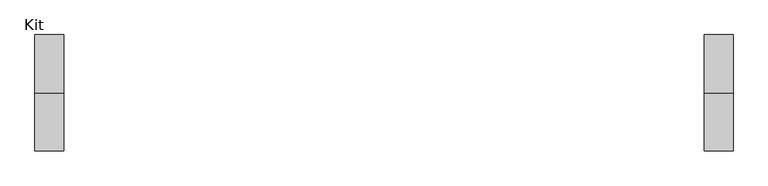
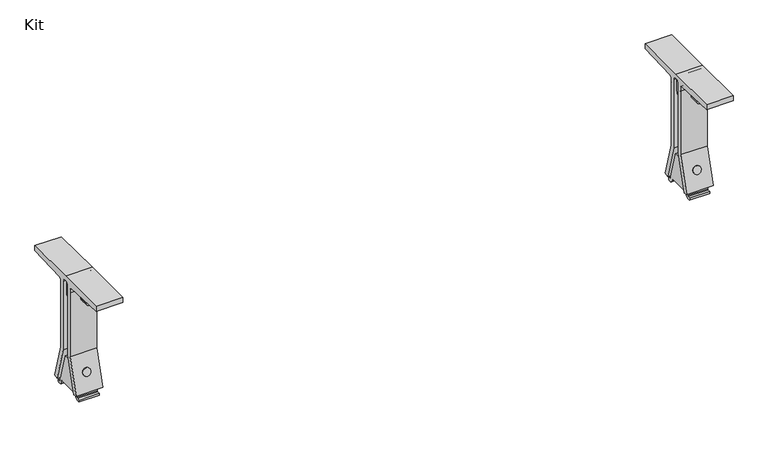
"""IFC4 building model written with IfcOpenShell, lengths in millimetres: furniture geometry, Steelcase - C Scape - Mid Storage Support - Parallel Application : Kit."""

from ifc_helpers import new_model, si_unit, point, frame, frame_2d, origin, place, context, project, spatial, polyline, circle_curve, trimmed, segment, composite_curve, outline, extrude, source, transform, mapped, element, save
from ifc_brep_helpers import plane_surface, cylinder_surface, revolved_surface, advanced_brep


def kit_029fefce(model_context):
    return source(origin(), model_context, "Body", "SolidModel", [
        extrude(outline(composite_curve([segment(trimmed(circle_curve(frame_2d((0.0, -7.62)), 7.62), [point((0.0, -15.2400001))], [point((0.0, 0.0))], False, "CARTESIAN"), True, "CONTINUOUS"), segment(trimmed(circle_curve(frame_2d((0.0, -7.62)), 7.62), [point((0.0, 0.0))], [point((0.0, -15.2400001))], False, "CARTESIAN"), True, "CONTINUOUS")], self_intersect=False)), frame((1346.0372744, 27.6488399, 643.460563), z_axis=(0.0, 0.9612616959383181, 0.27563735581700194), x_axis=(1.0, 0.0, 0.0)), (0.0, 0.0, 1.0), 1.4986),
        extrude(outline(composite_curve([segment(trimmed(circle_curve(frame_2d((0.0, -7.62)), 7.62), [point((0.0, -15.2400001))], [point((0.0, 0.0))], False, "CARTESIAN"), True, "CONTINUOUS"), segment(trimmed(circle_curve(frame_2d((0.0, -7.62)), 7.62), [point((0.0, 0.0))], [point((0.0, -15.2400001))], False, "CARTESIAN"), True, "CONTINUOUS")], self_intersect=False)), frame((1346.0372744, -27.6488399, 643.460563), z_axis=(0.0, -0.9612616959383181, 0.27563735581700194), x_axis=(-1.0, 0.0, 0.0)), (0.0, 0.0, 1.0), 1.4986),
        extrude(outline(composite_curve([segment(polyline([(831.0188755, 1327.1499939), (796.4677708, 1327.1499939)]), True, "CONTINUOUS"), segment(trimmed(circle_curve(frame_2d((796.4677708, 1346.1223365)), 18.9723425), [point((796.4677708, 1327.1499939))], [point((796.4677708, 1365.094679))], False, "CARTESIAN"), True, "CONTINUOUS"), segment(polyline([(796.4677708, 1365.094679), (831.0188755, 1365.094679), (831.0188755, 1327.1499939)]), True, "CONTINUOUS")], self_intersect=False)), frame((0.0, -7.7216, 0.0), z_axis=(0.0, 1.0, 0.0), x_axis=(0.0, 0.0, 1.0)), (0.0, 0.0, 1.0), 15.4432),
        extrude(outline(composite_curve([segment(trimmed(circle_curve(frame_2d((795.2125216, 1346.0777999)), 5.08), [point((795.2125216, 1340.9977999))], [point((795.2125216, 1351.1577999))], False, "CARTESIAN"), True, "CONTINUOUS"), segment(trimmed(circle_curve(frame_2d((795.2125216, 1346.0777999)), 5.08), [point((795.2125216, 1351.1577999))], [point((795.2125216, 1340.9977999))], False, "CARTESIAN"), True, "CONTINUOUS")], self_intersect=False)), frame((0.0, -33.751708, 0.0), z_axis=(0.0, 1.0, 0.0), x_axis=(0.0, 0.0, 1.0)), (0.0, 0.0, 1.0), 67.5034159),
        extrude(outline(polyline([(-12.7029566, 666.75), (0.0, 666.75), (12.7029566, 666.75), (28.4480001, 611.8301829), (28.4480001, 607.0345769), (29.7688272, 605.713791), (34.9250008, 605.713791), (34.9250008, 601.7005912), (32.4173128, 600.2527871), (27.5068015, 600.2527871), (22.9870008, 604.7725827), (22.9870008, 610.3620174), (0.0, 610.3620174), (-22.9870008, 610.3620174), (-22.9870008, 604.7725827), (-27.5068015, 600.2527871), (-32.4173128, 600.2527871), (-34.9250008, 601.7005912), (-34.9250008, 605.713791), (-29.7688272, 605.713791), (-28.4480001, 607.0345769), (-28.4480001, 611.8301829), (-12.7029566, 666.75)])), frame((1327.1499939, 0.0, 0.0), z_axis=(1.0, 0.0, 0.0), x_axis=(0.0, 1.0, 0.0)), (0.0, 0.0, 1.0), 37.9446851),
        extrude(outline(composite_curve([segment(polyline([(0.0, 838.2), (101.600003, 838.2), (101.600003, 828.2177708), (19.2990887, 824.4254454)]), True, "CONTINUOUS"), segment(trimmed(circle_curve(frame_2d((19.4630785, 820.8665431)), 3.5626785), [point((19.2990887, 824.4254454))], [point((15.9004, 820.8665431))], True, "CARTESIAN"), True, "CONTINUOUS"), segment(polyline([(15.9004, 820.8665431), (15.9004, 813.4440849), (14.8286664, 813.0540058), (15.9004, 813.0540058), (15.9004, 684.432242), (35.5026697, 616.0710033), (27.860447, 613.8796312), (7.9494757, 683.3174402), (7.9494757, 821.8670528)]), True, "CONTINUOUS"), segment(trimmed(circle_curve(frame_2d((0.0, 821.8670528)), 7.9494757), [point((7.9494757, 821.8670528))], [point((-7.9494757, 821.8670528))], True, "CARTESIAN"), True, "CONTINUOUS"), segment(polyline([(-7.9494757, 821.8670528), (-7.9494757, 683.3174402), (-27.860447, 613.8796312), (-35.5026697, 616.0710033), (-15.9004, 684.432242), (-15.9004, 813.0540058), (-14.8286664, 813.0540058), (-15.9004, 813.4440849), (-15.9004, 820.8665431)]), True, "CONTINUOUS"), segment(trimmed(circle_curve(frame_2d((-19.4630785, 820.8665431)), 3.5626785), [point((-15.9004, 820.8665431))], [point((-19.2990887, 824.4254454))], True, "CARTESIAN"), True, "CONTINUOUS"), segment(polyline([(-19.2990887, 824.4254454), (-101.600003, 828.2177708), (-101.600003, 838.2), (0.0, 838.2)]), True, "CONTINUOUS")], self_intersect=False)), frame((1320.8, 0.0, 0.0), z_axis=(1.0, 0.0, 0.0), x_axis=(0.0, 1.0, 0.0)), (0.0, 0.0, 1.0), 50.8),
        extrude(outline(composite_curve([segment(trimmed(circle_curve(frame_2d((0.0, -7.62)), 7.62), [point((0.0, -15.2400001))], [point((0.0, 0.0))], False, "CARTESIAN"), True, "CONTINUOUS"), segment(trimmed(circle_curve(frame_2d((0.0, -7.62)), 7.62), [point((0.0, 0.0))], [point((0.0, -15.2400001))], False, "CARTESIAN"), True, "CONTINUOUS")], self_intersect=False)), frame((177.6372744, -27.6488399, 643.460563), z_axis=(0.0, -0.9612616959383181, 0.27563735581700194), x_axis=(-1.0, 0.0, 0.0)), (0.0, 0.0, 1.0), 1.4986),
        extrude(outline(composite_curve([segment(trimmed(circle_curve(frame_2d((0.0, -7.62)), 7.62), [point((0.0, -15.2400001))], [point((0.0, 0.0))], False, "CARTESIAN"), True, "CONTINUOUS"), segment(trimmed(circle_curve(frame_2d((0.0, -7.62)), 7.62), [point((0.0, 0.0))], [point((0.0, -15.2400001))], False, "CARTESIAN"), True, "CONTINUOUS")], self_intersect=False)), frame((177.6372744, 27.6488399, 643.460563), z_axis=(0.0, 0.9612616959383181, 0.27563735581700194), x_axis=(1.0, 0.0, 0.0)), (0.0, 0.0, 1.0), 1.4986),
        advanced_brep(
        [(152.4, 0.0, 838.2), (152.4, 101.600003, 838.2), (152.4, 101.600003, 828.2177708), (152.4, 19.2990887, 824.4254454), (152.4, 15.9004, 820.8665431), (152.4, 15.9004, 813.4440849), (152.4, 14.8286664, 813.0540058), (152.4, 15.9004, 813.0540058), (152.4, 15.9004, 684.432242), (152.4, 35.5026697, 616.0710033), (152.4, 27.860447, 613.8796312), (152.4, 7.9494757, 683.3174402), (152.4, 7.9494757, 821.8670528), (152.4, -7.9494757, 821.8670528), (152.4, -7.9494757, 683.3174402), (152.4, -27.860447, 613.8796312), (152.4, -35.5026697, 616.0710033), (152.4, -15.9004, 684.432242), (152.4, -15.9004, 813.0540058), (152.4, -14.8286664, 813.0540058), (152.4, -15.9004, 813.4440849), (152.4, -15.9004, 820.8665431), (152.4, -19.2990887, 824.4254454), (152.4, -101.600003, 828.2177708), (152.4, -101.600003, 838.2), (203.2, 0.0, 838.2), (203.2, -101.600003, 838.2), (203.2, -101.600003, 828.2177708), (203.2, -19.2990887, 824.4254454), (203.2, -15.9004, 820.8665431), (203.2, -15.9004, 813.4440849), (203.2, -14.8286664, 813.0540058), (203.2, -15.9004, 813.0540058), (203.2, -15.9004, 684.432242), (203.2, -35.5026697, 616.0710033), (203.2, -27.860447, 613.8796312), (203.2, -7.9494757, 683.3174402), (203.2, -7.9494757, 821.8670528), (203.2, 7.9494757, 821.8670528), (203.2, 7.9494757, 683.3174402), (203.2, 27.860447, 613.8796312), (203.2, 35.5026697, 616.0710033), (203.2, 15.9004, 684.432242), (203.2, 15.9004, 813.0540058), (203.2, 14.8286664, 813.0540058), (203.2, 15.9004, 813.4440849), (203.2, 15.9004, 820.8665431), (203.2, 19.2990887, 824.4254454), (203.2, 101.600003, 828.2177708), (203.2, 101.600003, 838.2), (172.5977999, 15.9004, 795.2125216), (182.7577999, 15.9004, 795.2125216), (182.7577999, 7.9494757, 795.2125216), (172.5977999, 7.9494757, 795.2125216), (158.7499939, -7.7216, 823.756777), (196.694679, -7.7216, 823.756777), (196.694679, 7.7216, 823.756777), (158.7499939, 7.7216, 823.756777), (172.5977999, -7.9494757, 795.2125216), (182.7577999, -7.9494757, 795.2125216), (182.7577999, -15.9004, 795.2125216), (172.5977999, -15.9004, 795.2125216), (158.7499939, -7.7216, 796.4677708), (196.694679, -7.7216, 796.4677708), (182.7577999, -7.7216, 795.2125216), (172.5977999, -7.7216, 795.2125216), (196.694679, 7.7216, 796.4677708), (158.7499939, 7.7216, 796.4677708), (172.5977999, 7.7216, 795.2125216), (182.7577999, 7.7216, 795.2125216), (172.5977999, -33.751708, 795.2125216), (182.7577999, -33.751708, 795.2125216), (172.5977999, 33.751708, 795.2125216), (182.7577999, 33.751708, 795.2125216)],
        [
            (0, 1),
            (1, 2),
            (2, 3),
            (3, 4, circle_curve(frame((152.4, 19.4630785, 820.8665431), z_axis=(1.0, 0.0, 0.0), x_axis=(0.0, -1.0, 0.0)), 3.5626785)),
            (4, 5),
            (5, 6),
            (6, 7),
            (7, 8),
            (8, 9),
            (9, 10),
            (10, 11),
            (11, 12),
            (12, 13, circle_curve(frame((152.4, 0.0, 821.8670528), z_axis=(1.0, 0.0, 0.0), x_axis=(0.0, -1.0, 0.0)), 7.9494757)),
            (13, 14),
            (14, 15),
            (15, 16),
            (16, 17),
            (17, 18),
            (18, 19),
            (19, 20),
            (20, 21),
            (21, 22, circle_curve(frame((152.4, -19.4630785, 820.8665431), z_axis=(1.0, 0.0, 0.0), x_axis=(0.0, 1.0, 0.0)), 3.5626785)),
            (22, 23),
            (23, 24),
            (24, 0),
            (25, 26),
            (26, 27),
            (27, 28),
            (28, 29, circle_curve(frame((203.2, -19.4630785, 820.8665431), z_axis=(-1.0, 0.0, 0.0), x_axis=(0.0, 1.0, 0.0)), 3.5626785)),
            (29, 30),
            (30, 31),
            (31, 32),
            (32, 33),
            (33, 34),
            (34, 35),
            (35, 36),
            (36, 37),
            (37, 38, circle_curve(frame((203.2, 0.0, 821.8670528), z_axis=(-1.0, 0.0, 0.0), x_axis=(0.0, -1.0, 0.0)), 7.9494757)),
            (38, 39),
            (39, 40),
            (40, 41),
            (41, 42),
            (42, 43),
            (43, 44),
            (44, 45),
            (45, 46),
            (46, 47, circle_curve(frame((203.2, 19.4630785, 820.8665431), z_axis=(-1.0, 0.0, 0.0), x_axis=(0.0, -1.0, 0.0)), 3.5626785)),
            (47, 48),
            (48, 49),
            (49, 25),
            (0, 25),
            (49, 1),
            (48, 2),
            (47, 3),
            (46, 4),
            (45, 5),
            (44, 6),
            (43, 7),
            (42, 8),
            (50, 51, circle_curve(frame((177.6777999, 15.9004, 795.2125216), z_axis=(0.0, -1.0, 0.0), x_axis=(1.0, 0.0, 0.0)), 5.08)),
            (51, 50, circle_curve(frame((177.6777999, 15.9004, 795.2125216), z_axis=(0.0, -1.0, 0.0), x_axis=(1.0, 0.0, 0.0)), 5.08)),
            (41, 9),
            (40, 10),
            (39, 11),
            (38, 12),
            (52, 53, circle_curve(frame((177.6777999, 7.9494757, 795.2125216), z_axis=(0.0, 1.0, 0.0), x_axis=(1.0, 0.0, 0.0)), 5.08)),
            (53, 52, circle_curve(frame((177.6777999, 7.9494757, 795.2125216), z_axis=(0.0, 1.0, 0.0), x_axis=(1.0, 0.0, 0.0)), 5.08)),
            (37, 13),
            (54, 55),
            (55, 56, circle_curve(frame((196.694679, 0.0, 821.8670528), z_axis=(-1.0, 0.0, 0.0), x_axis=(0.0, -1.0, 0.0)), 7.9494757)),
            (56, 57),
            (57, 54, circle_curve(frame((158.7499939, 0.0, 821.8670528), z_axis=(1.0, 0.0, 0.0), x_axis=(0.0, -1.0, 0.0)), 7.9494757)),
            (36, 14),
            (58, 59, circle_curve(frame((177.6777999, -7.9494757, 795.2125216), z_axis=(0.0, -1.0, 0.0), x_axis=(1.0, 0.0, 0.0)), 5.08)),
            (59, 58, circle_curve(frame((177.6777999, -7.9494757, 795.2125216), z_axis=(0.0, -1.0, 0.0), x_axis=(1.0, 0.0, 0.0)), 5.08)),
            (35, 15),
            (34, 16),
            (33, 17),
            (32, 18),
            (60, 61, circle_curve(frame((177.6777999, -15.9004, 795.2125216), z_axis=(0.0, 1.0, 0.0), x_axis=(1.0, 0.0, 0.0)), 5.08)),
            (61, 60, circle_curve(frame((177.6777999, -15.9004, 795.2125216), z_axis=(0.0, 1.0, 0.0), x_axis=(1.0, 0.0, 0.0)), 5.08)),
            (31, 19),
            (30, 20),
            (29, 21),
            (28, 22),
            (27, 23),
            (26, 24),
            (62, 63, circle_curve(frame((177.7223365, -7.7216, 796.4677708), z_axis=(0.0, -1.0, 0.0), x_axis=(1.0, 0.0, 0.0)), 18.9723425)),
            (63, 55),
            (54, 62),
            (64, 65, circle_curve(frame((177.6777999, -7.7216, 795.2125216), z_axis=(0.0, 1.0, 0.0), x_axis=(1.0, 0.0, 0.0)), 5.08)),
            (65, 64, circle_curve(frame((177.6777999, -7.7216, 795.2125216), z_axis=(0.0, 1.0, 0.0), x_axis=(1.0, 0.0, 0.0)), 5.08)),
            (66, 67, circle_curve(frame((177.7223365, 7.7216, 796.4677708), z_axis=(0.0, 1.0, 0.0), x_axis=(1.0, 0.0, 0.0)), 18.9723425)),
            (67, 57),
            (56, 66),
            (68, 69, circle_curve(frame((177.6777999, 7.7216, 795.2125216), z_axis=(0.0, -1.0, 0.0), x_axis=(1.0, 0.0, 0.0)), 5.08)),
            (69, 68, circle_curve(frame((177.6777999, 7.7216, 795.2125216), z_axis=(0.0, -1.0, 0.0), x_axis=(1.0, 0.0, 0.0)), 5.08)),
            (67, 62),
            (66, 63),
            (70, 71, circle_curve(frame((177.6777999, -33.751708, 795.2125216), z_axis=(0.0, -1.0, 0.0), x_axis=(1.0, 0.0, 0.0)), 5.08)),
            (71, 70, circle_curve(frame((177.6777999, -33.751708, 795.2125216), z_axis=(0.0, -1.0, 0.0), x_axis=(1.0, 0.0, 0.0)), 5.08)),
            (72, 73, circle_curve(frame((177.6777999, 33.751708, 795.2125216), z_axis=(0.0, 1.0, 0.0), x_axis=(1.0, 0.0, 0.0)), 5.08)),
            (73, 72, circle_curve(frame((177.6777999, 33.751708, 795.2125216), z_axis=(0.0, 1.0, 0.0), x_axis=(1.0, 0.0, 0.0)), 5.08)),
            (70, 61),
            (60, 71),
            (73, 51),
            (50, 72),
            (58, 65),
            (64, 59),
            (68, 53),
            (52, 69),
        ],
        [
            plane_surface(frame((152.4, 96.5199988, 838.2), z_axis=(-1.0, 0.0, 0.0), x_axis=(0.0, 1.0, 0.0))),
            plane_surface(frame((203.2, 96.5199988, 838.2), z_axis=(1.0, 0.0, 0.0), x_axis=(0.0, -1.0, 0.0))),
            plane_surface(frame((152.4, 0.0, 838.2), z_axis=(0.0, 0.0, 1.0), x_axis=(1.0, 0.0, 0.0))),
            plane_surface(frame((152.4, 101.600003, 838.2), z_axis=(0.0, 1.0, 0.0), x_axis=(1.0, 0.0, 0.0))),
            plane_surface(frame((152.4, 101.600003, 828.2177708), z_axis=(0.0, 0.04602993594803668, -0.9989400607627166), x_axis=(1.0, 0.0, 0.0))),
            revolved_surface(polyline([(203.2, 15.900400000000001, 820.8665431), (152.4, 15.900400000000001, 820.8665431)]), (203.2, 19.4630785, 820.8665431), (1.0, 0.0, 0.0)),
            plane_surface(frame((152.4, 15.9004, 820.8665431), z_axis=(0.0, 1.0, 0.0), x_axis=(1.0, 0.0, 0.0))),
            plane_surface(frame((152.4, 15.9004, 813.4440849), z_axis=(0.0, 0.34202014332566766, -0.9396926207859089), x_axis=(1.0, 0.0, 0.0))),
            plane_surface(frame((152.4, 14.8286664, 813.0540058), z_axis=(0.0, 0.0, 1.0), x_axis=(1.0, 0.0, 0.0))),
            plane_surface(frame((152.4, 15.9004, 813.0540058), z_axis=(0.0, 1.0, 0.0), x_axis=(1.0, 0.0, 0.0))),
            plane_surface(frame((152.4, 15.9004, 684.432242), z_axis=(0.0, 0.9612616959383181, 0.275637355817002), x_axis=(1.0, 0.0, 0.0))),
            plane_surface(frame((152.4, 35.5026697, 616.0710033), z_axis=(0.0, 0.2756373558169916, -0.961261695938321), x_axis=(1.0, 0.0, 0.0))),
            plane_surface(frame((152.4, 27.860447, 613.8796312), z_axis=(0.0, -0.9612616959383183, -0.2756373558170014), x_axis=(1.0, 0.0, 0.0))),
            plane_surface(frame((152.4, 7.9494757, 683.3174402), z_axis=(0.0, -1.0, 0.0), x_axis=(1.0, 0.0, 0.0))),
            revolved_surface(polyline([(203.2, -7.9494757, 821.8670528), (152.4, -7.9494757, 821.8670528)]), (203.2, 0.0, 821.8670528), (1.0, 0.0, 0.0)),
            plane_surface(frame((152.4, -7.9494757, 821.8670528), z_axis=(0.0, 1.0, 0.0), x_axis=(1.0, 0.0, 0.0))),
            plane_surface(frame((152.4, -7.9494757, 683.3174402), z_axis=(0.0, 0.9612616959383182, -0.2756373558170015), x_axis=(1.0, 0.0, 0.0))),
            plane_surface(frame((152.4, -27.860447, 613.8796312), z_axis=(0.0, -0.27563735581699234, -0.9612616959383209), x_axis=(1.0, 0.0, 0.0))),
            plane_surface(frame((152.4, -35.5026697, 616.0710033), z_axis=(0.0, -0.9612616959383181, 0.27563735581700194), x_axis=(1.0, 0.0, 0.0))),
            plane_surface(frame((152.4, -15.9004, 684.432242), z_axis=(0.0, -1.0, 0.0), x_axis=(1.0, 0.0, 0.0))),
            plane_surface(frame((152.4, -15.9004, 813.0540058), z_axis=(0.0, 0.0, 1.0), x_axis=(1.0, 0.0, 0.0))),
            plane_surface(frame((152.4, -14.8286664, 813.0540058), z_axis=(0.0, -0.34202014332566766, -0.9396926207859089), x_axis=(1.0, 0.0, 0.0))),
            plane_surface(frame((152.4, -15.9004, 813.4440849), z_axis=(0.0, -1.0, 0.0), x_axis=(1.0, 0.0, 0.0))),
            revolved_surface(polyline([(203.2, -15.900400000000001, 820.8665431), (152.4, -15.900400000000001, 820.8665431)]), (203.2, -19.4630785, 820.8665431), (1.0, 0.0, 0.0)),
            plane_surface(frame((152.4, -19.2990887, 824.4254454), z_axis=(0.0, -0.046029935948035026, -0.9989400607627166), x_axis=(1.0, 0.0, 0.0))),
            plane_surface(frame((152.4, -101.600003, 828.2177708), z_axis=(0.0, -1.0, 0.0), x_axis=(1.0, 0.0, 0.0))),
            plane_surface(frame((152.4, -101.600003, 838.2), z_axis=(0.0, 0.0, 1.0), x_axis=(1.0, 0.0, 0.0))),
            plane_surface(frame((158.7499939, -7.7216, -304.8), z_axis=(0.0, -1.0, 0.0), x_axis=(0.0, 0.0, -1.0))),
            plane_surface(frame((158.7499939, 7.7216, -304.8), z_axis=(0.0, 1.0, 0.0), x_axis=(0.0, 0.0, 1.0))),
            plane_surface(frame((158.7499939, -7.7216, 831.0188755), z_axis=(-1.0, 0.0, 0.0), x_axis=(0.0, 1.0, 0.0))),
            cylinder_surface(frame((177.7223365, 7.7216, 796.4677708), z_axis=(0.0, -1.0, 0.0), x_axis=(1.0, 0.0, 0.0)), 18.9723425),
            plane_surface(frame((196.694679, -7.7216, 796.4677708), z_axis=(1.0, 0.0, 0.0), x_axis=(0.0, 1.0, 0.0))),
            plane_surface(frame((182.7577999, -33.751708, 795.2125216), z_axis=(0.0, -1.0, 0.0), x_axis=(0.0, 0.0, 1.0))),
            plane_surface(frame((182.7577999, 33.751708, 795.2125216), z_axis=(0.0, 1.0, 0.0), x_axis=(0.0, 0.0, -1.0))),
            cylinder_surface(frame((177.6777999, 33.751708, 795.2125216), z_axis=(0.0, -1.0, 0.0), x_axis=(1.0, 0.0, 0.0)), 5.08),
        ],
        [
            (0, [[1, 2, 3, 4, 5, 6, 7, 8, 9, 10, 11, 12, 13, 14, 15, 16, 17, 18, 19, 20, 21, 22, 23, 24, 25]]),
            (1, [[26, 27, 28, 29, 30, 31, 32, 33, 34, 35, 36, 37, 38, 39, 40, 41, 42, 43, 44, 45, 46, 47, 48, 49, 50]]),
            (2, [[-1, 51, -50, 52]]),
            (3, [[-2, -52, -49, 53]]),
            (4, [[-3, -53, -48, 54]]),
            (5, [[-4, -54, -47, 55]]),
            (6, [[-5, -55, -46, 56]]),
            (7, [[-6, -56, -45, 57]]),
            (8, [[-7, -57, -44, 58]]),
            (9, [[-8, -58, -43, 59], [60, 61]]),
            (10, [[-9, -59, -42, 62]]),
            (11, [[-10, -62, -41, 63]]),
            (12, [[-11, -63, -40, 64]]),
            (13, [[-12, -64, -39, 65], [66, 67]]),
            (14, [[-13, -65, -38, 68], [69, 70, 71, 72]]),
            (15, [[-14, -68, -37, 73], [74, 75]]),
            (16, [[-15, -73, -36, 76]]),
            (17, [[-16, -76, -35, 77]]),
            (18, [[-17, -77, -34, 78]]),
            (19, [[-18, -78, -33, 79], [80, 81]]),
            (20, [[-19, -79, -32, 82]]),
            (21, [[-20, -82, -31, 83]]),
            (22, [[-21, -83, -30, 84]]),
            (23, [[-22, -84, -29, 85]]),
            (24, [[-23, -85, -28, 86]]),
            (25, [[-24, -86, -27, 87]]),
            (26, [[-25, -87, -26, -51]]),
            (27, [[88, 89, -69, 90], [91, 92]]),
            (28, [[93, 94, -71, 95], [96, 97]]),
            (29, [[98, -90, -72, -94]]),
            (30, [[-88, -98, -93, 99]]),
            (31, [[-99, -95, -70, -89]]),
            (32, [[100, 101]]),
            (33, [[102, 103]]),
            (34, [[-100, 104, -80, 105]]),
            (34, [[-103, 106, -60, 107]]),
            (34, [[108, -91, 109, -74]]),
            (34, [[110, -66, 111, -96]]),
            (34, [[-101, -105, -81, -104]]),
            (34, [[-102, -107, -61, -106]]),
            (34, [[-108, -75, -109, -92]]),
            (34, [[-110, -97, -111, -67]]),
        ],
    ),
        extrude(outline(polyline([(-12.7029566, 666.75), (0.0, 666.75), (12.7029566, 666.75), (28.4480001, 611.8301829), (28.4480001, 607.0345769), (29.7688272, 605.713791), (34.9250008, 605.713791), (34.9250008, 601.7005912), (32.4173128, 600.2527871), (27.5068015, 600.2527871), (22.9870008, 604.7725827), (22.9870008, 610.3620174), (0.0, 610.3620174), (-22.9870008, 610.3620174), (-22.9870008, 604.7725827), (-27.5068015, 600.2527871), (-32.4173128, 600.2527871), (-34.9250008, 601.7005912), (-34.9250008, 605.713791), (-29.7688272, 605.713791), (-28.4480001, 607.0345769), (-28.4480001, 611.8301829), (-12.7029566, 666.75)])), frame((158.7499939, 0.0, 0.0), z_axis=(1.0, 0.0, 0.0), x_axis=(0.0, 1.0, 0.0)), (0.0, 0.0, 1.0), 37.9446851),
    ])


if __name__ == "__main__":
    model = new_model("IFC4")
    model_context = context("Model", 3, world=origin())
    ifc_project = project(units=[si_unit("LENGTHUNIT", "METRE", prefix="MILLI")], contexts=[model_context])
    site = spatial("IfcSite", under=ifc_project)
    building = spatial("IfcBuilding", under=site)
    placement = place(None, origin())
    kit_shape = kit_029fefce(model_context)
    element("IfcFurniture", 1, ObjectType="Steelcase - C Scape - Mid Storage Support - Parallel Application : Kit", at=placement, inside=building, context=model_context, shape_type="MappedRepresentation", body=[
        mapped(kit_shape, transform((0.0, 0.0, 0.0), x_axis=(1.0, 0.0, 0.0), y_axis=(0.0, 1.0, 0.0), z_axis=(0.0, 0.0, 1.0))),
    ])
    save(model, "model.ifc")
